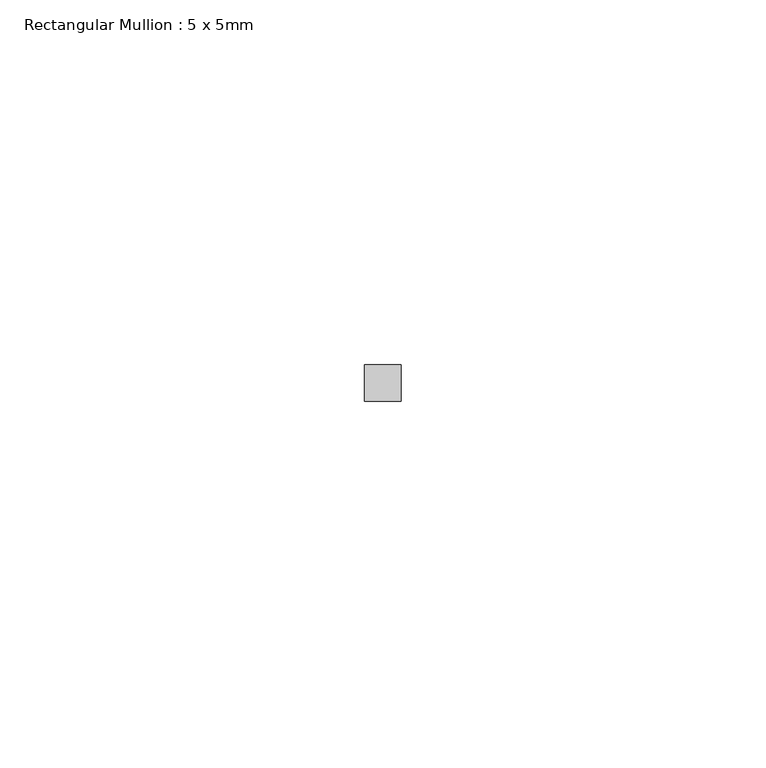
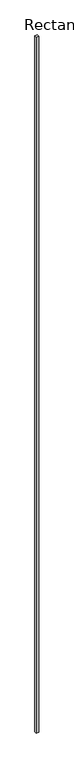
"""IFC4 building model written with IfcOpenShell, lengths in millimetres: member geometry, Rectangular Mullion : 5 x 5mm."""

from ifc_helpers import new_model, si_unit, frame, origin, place, context, project, spatial, polyline, outline, extrude, source, transform, mapped, element, save


def rectangular_mullion_5_x_5mm_b523a144(model_context):
    return source(origin(), model_context, "Body", "SweptSolid", [
        extrude(outline(polyline([(0.0, 2.5), (0.0, -2.5), (-5.0, -2.5), (-5.0, 2.5), (0.0, 2.5)])), frame((0.0, 0.0, -1570.0), z_axis=(0.0, 0.0, 1.0), x_axis=(1.0, 0.0, 0.0)), (0.0, 0.0, 1.0), 1570.0),
    ])


if __name__ == "__main__":
    model = new_model("IFC4")
    model_context = context("Model", 3, world=origin())
    ifc_project = project(units=[si_unit("LENGTHUNIT", "METRE", prefix="MILLI")], contexts=[model_context])
    site = spatial("IfcSite", under=ifc_project)
    building = spatial("IfcBuilding", under=site)
    placement = place(None, origin())
    rectangular_mullion_5_x_5mm_shape = rectangular_mullion_5_x_5mm_b523a144(model_context)
    element("IfcMember", 1, ObjectType="Rectangular Mullion : 5 x 5mm", at=placement, inside=building, context=model_context, shape_type="MappedRepresentation", body=[
        mapped(rectangular_mullion_5_x_5mm_shape, transform((0.0, 0.0, 0.0), x_axis=(1.0, 0.0, 0.0), y_axis=(0.0, 1.0, 0.0), z_axis=(0.0, 0.0, 1.0))),
    ])
    save(model, "model.ifc")
